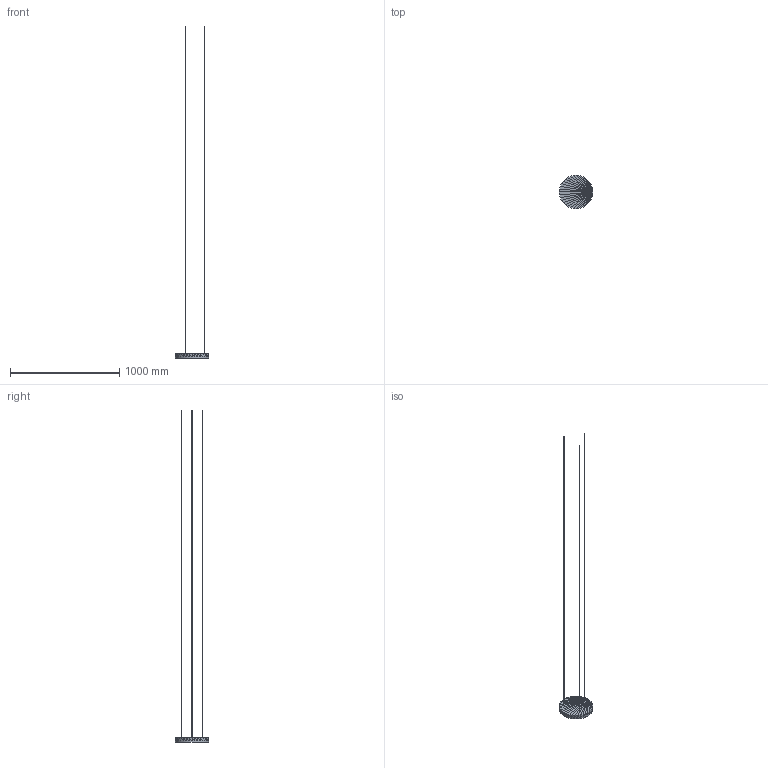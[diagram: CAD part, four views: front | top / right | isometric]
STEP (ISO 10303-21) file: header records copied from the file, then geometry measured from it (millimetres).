
FILE_DESCRIPTION(('ISINAC STEP AP214'),'2;1');
FILE_NAME('ISINAC_CIR.305_40mm_COLGADO','2026-05-03T10:49:19',('ISINAC'),('www.isinac.com'),'ISINAC BIM Generator 1.0','','');
FILE_SCHEMA(('AUTOMOTIVE_DESIGN'));
Length unit declared in the file: millimetre
Products named in the file (1): ISINAC_CIR.305_40mm_COLGADO
Bounding box: 305 x 305 x 3040 mm (x, y, z)
Surface area: 264696.5 mm2 (no closed solid volume)
Topology: 0 solids, 200 shells, 200 faces, 600 edges, 600 vertices
Faces by surface type: plane 200
Entity records: 2213 total; most frequent: CARTESIAN_POINT 800, DIRECTION 400, POLY_LOOP 200, FACE_OUTER_BOUND 200, AXIS2_PLACEMENT_3D 200, PLANE 200, FACE_SURFACE 200, CLOSED_SHELL 1
